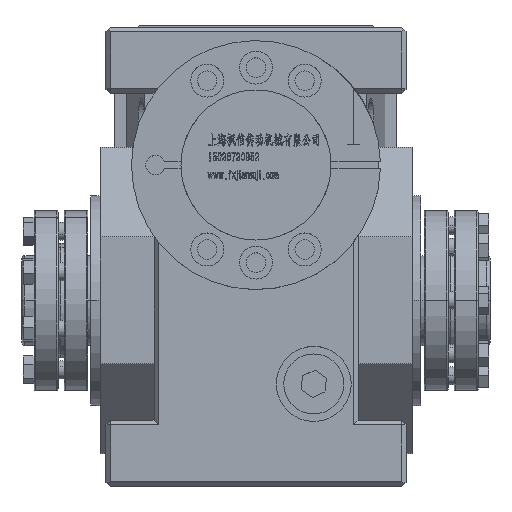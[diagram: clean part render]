
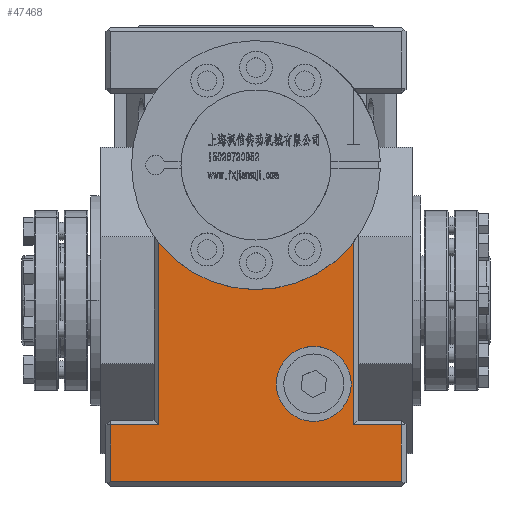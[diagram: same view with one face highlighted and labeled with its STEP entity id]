
A CAD part, top view. The second image highlights one B-rep face of the part: STEP entity #47468.
In plain terms, the highlighted planar face has unit normal (0, 0, 1).
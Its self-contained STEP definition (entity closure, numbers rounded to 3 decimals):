
#2364 = ORIENTED_EDGE ( 'NONE', *, *, #2601, .T. ) ;
#2601 = EDGE_CURVE ( 'NONE', #111550, #64892, #106856, .T. ) ;
#3119 = DIRECTION ( 'NONE',  ( 1., 0., 0. ) ) ;
#5248 = LINE ( 'NONE', #100438, #60129 ) ;
#8079 = VERTEX_POINT ( 'NONE', #76109 ) ;
#9004 = DIRECTION ( 'NONE',  ( 0., 1., 0. ) ) ;
#9660 = VERTEX_POINT ( 'NONE', #83107 ) ;
#9748 = VERTEX_POINT ( 'NONE', #108242 ) ;
#14414 = CIRCLE ( 'NONE', #38013, 41. ) ;
#14599 = EDGE_CURVE ( 'NONE', #64892, #9660, #94458, .T. ) ;
#19080 = CARTESIAN_POINT ( 'NONE',  ( 48.5, -40., 68.5 ) ) ;
#20970 = EDGE_CURVE ( 'NONE', #41186, #104296, #14414, .T. ) ;
#22526 = DIRECTION ( 'NONE',  ( 0., -1., 0. ) ) ;
#22678 = DIRECTION ( 'NONE',  ( 0., -1., 0. ) ) ;
#23146 = ORIENTED_EDGE ( 'NONE', *, *, #57540, .T. ) ;
#23194 = EDGE_CURVE ( 'NONE', #41186, #94665, #65380, .T. ) ;
#23344 = EDGE_CURVE ( 'NONE', #72301, #9748, #81935, .T. ) ;
#23431 = CARTESIAN_POINT ( 'NONE',  ( 6.753, -27.925, 68.5 ) ) ;
#31046 = LINE ( 'NONE', #65790, #76102 ) ;
#32336 = DIRECTION ( 'NONE',  ( -1., 0., 0. ) ) ;
#33044 = VECTOR ( 'NONE', #32336, 1000. ) ;
#36450 = AXIS2_PLACEMENT_3D ( 'NONE', #69310, #68756, #77342 ) ;
#36590 = ORIENTED_EDGE ( 'NONE', *, *, #110131, .T. ) ;
#37702 = EDGE_LOOP ( 'NONE', ( #36590, #23146, #2364, #56357, #64429, #51599, #41774, #92648 ) ) ;
#38013 = AXIS2_PLACEMENT_3D ( 'NONE', #56554, #40613, #83362 ) ;
#39178 = DIRECTION ( 'NONE',  ( -1., 0., 0. ) ) ;
#40613 = DIRECTION ( 'NONE',  ( 0., 0., 1. ) ) ;
#41186 = VERTEX_POINT ( 'NONE', #76611 ) ;
#41774 = ORIENTED_EDGE ( 'NONE', *, *, #23194, .T. ) ;
#44179 = CARTESIAN_POINT ( 'NONE',  ( 19.253, -27.925, 68.5 ) ) ;
#47468 = ADVANCED_FACE ( 'NONE', ( #81905, #82482 ), #72225, .F. ) ;
#47701 = DIRECTION ( 'NONE',  ( 0., 0., -1. ) ) ;
#48012 = DIRECTION ( 'NONE',  ( -1., 0., 0. ) ) ;
#51599 = ORIENTED_EDGE ( 'NONE', *, *, #20970, .F. ) ;
#54948 = DIRECTION ( 'NONE',  ( 0., 1., 0. ) ) ;
#56357 = ORIENTED_EDGE ( 'NONE', *, *, #14599, .T. ) ;
#56367 = VECTOR ( 'NONE', #9004, 1000. ) ;
#56554 = CARTESIAN_POINT ( 'NONE',  ( 0., 45., 68.5 ) ) ;
#56965 = AXIS2_PLACEMENT_3D ( 'NONE', #44179, #89755, #3119 ) ;
#57540 = EDGE_CURVE ( 'NONE', #93578, #111550, #67852, .T. ) ;
#59309 = DIRECTION ( 'NONE',  ( 1., 0., 0. ) ) ;
#60129 = VECTOR ( 'NONE', #48012, 1000. ) ;
#60412 = ORIENTED_EDGE ( 'NONE', *, *, #104036, .F. ) ;
#62961 = CARTESIAN_POINT ( 'NONE',  ( -32.5, -41.5, 68.5 ) ) ;
#64429 = ORIENTED_EDGE ( 'NONE', *, *, #79803, .T. ) ;
#64892 = VERTEX_POINT ( 'NONE', #87248 ) ;
#65380 = LINE ( 'NONE', #100748, #107502 ) ;
#65790 = CARTESIAN_POINT ( 'NONE',  ( -48.5, 91., 68.5 ) ) ;
#66758 = AXIS2_PLACEMENT_3D ( 'NONE', #107016, #47701, #39178 ) ;
#67852 = LINE ( 'NONE', #102656, #95150 ) ;
#68756 = DIRECTION ( 'NONE',  ( 0., 0., 1. ) ) ;
#68836 = LINE ( 'NONE', #95652, #56367 ) ;
#69310 = CARTESIAN_POINT ( 'NONE',  ( 19.253, -27.925, 68.5 ) ) ;
#72225 = PLANE ( 'NONE',  #66758 ) ;
#72301 = VERTEX_POINT ( 'NONE', #23431 ) ;
#76102 = VECTOR ( 'NONE', #22526, 1000. ) ;
#76109 = CARTESIAN_POINT ( 'NONE',  ( -48.5, -41.5, 68.5 ) ) ;
#76611 = CARTESIAN_POINT ( 'NONE',  ( -32.5, 20.005, 68.5 ) ) ;
#77342 = DIRECTION ( 'NONE',  ( 1., 0., 0. ) ) ;
#79248 = CARTESIAN_POINT ( 'NONE',  ( 32.5, 20.005, 68.5 ) ) ;
#79803 = EDGE_CURVE ( 'NONE', #9660, #104296, #68836, .T. ) ;
#80829 = EDGE_LOOP ( 'NONE', ( #60412, #97128 ) ) ;
#81905 = FACE_BOUND ( 'NONE', #80829, .T. ) ;
#81935 = CIRCLE ( 'NONE', #36450, 12.5 ) ;
#82482 = FACE_OUTER_BOUND ( 'NONE', #37702, .T. ) ;
#83107 = CARTESIAN_POINT ( 'NONE',  ( 32.5, -41.5, 68.5 ) ) ;
#83362 = DIRECTION ( 'NONE',  ( 0., 1., 0. ) ) ;
#84786 = CARTESIAN_POINT ( 'NONE',  ( 50., -41.5, 68.5 ) ) ;
#86959 = CARTESIAN_POINT ( 'NONE',  ( -48.5, -60.5, 68.5 ) ) ;
#87248 = CARTESIAN_POINT ( 'NONE',  ( 48.5, -41.5, 68.5 ) ) ;
#89755 = DIRECTION ( 'NONE',  ( 0., 0., 1. ) ) ;
#92648 = ORIENTED_EDGE ( 'NONE', *, *, #99857, .T. ) ;
#93578 = VERTEX_POINT ( 'NONE', #86959 ) ;
#94458 = LINE ( 'NONE', #84786, #33044 ) ;
#94665 = VERTEX_POINT ( 'NONE', #62961 ) ;
#95069 = VECTOR ( 'NONE', #54948, 1000. ) ;
#95150 = VECTOR ( 'NONE', #59309, 1000. ) ;
#95652 = CARTESIAN_POINT ( 'NONE',  ( 32.5, 22.087, 68.5 ) ) ;
#97128 = ORIENTED_EDGE ( 'NONE', *, *, #23344, .F. ) ;
#99857 = EDGE_CURVE ( 'NONE', #94665, #8079, #5248, .T. ) ;
#100438 = CARTESIAN_POINT ( 'NONE',  ( -50., -41.5, 68.5 ) ) ;
#100748 = CARTESIAN_POINT ( 'NONE',  ( -32.5, -40., 68.5 ) ) ;
#102656 = CARTESIAN_POINT ( 'NONE',  ( 50., -60.5, 68.5 ) ) ;
#104036 = EDGE_CURVE ( 'NONE', #9748, #72301, #106114, .T. ) ;
#104296 = VERTEX_POINT ( 'NONE', #79248 ) ;
#106114 = CIRCLE ( 'NONE', #56965, 12.5 ) ;
#106856 = LINE ( 'NONE', #19080, #95069 ) ;
#107016 = CARTESIAN_POINT ( 'NONE',  ( 50., 91., 68.5 ) ) ;
#107502 = VECTOR ( 'NONE', #22678, 1000. ) ;
#108242 = CARTESIAN_POINT ( 'NONE',  ( 31.753, -27.925, 68.5 ) ) ;
#110131 = EDGE_CURVE ( 'NONE', #8079, #93578, #31046, .T. ) ;
#110747 = CARTESIAN_POINT ( 'NONE',  ( 48.5, -60.5, 68.5 ) ) ;
#111550 = VERTEX_POINT ( 'NONE', #110747 ) ;
